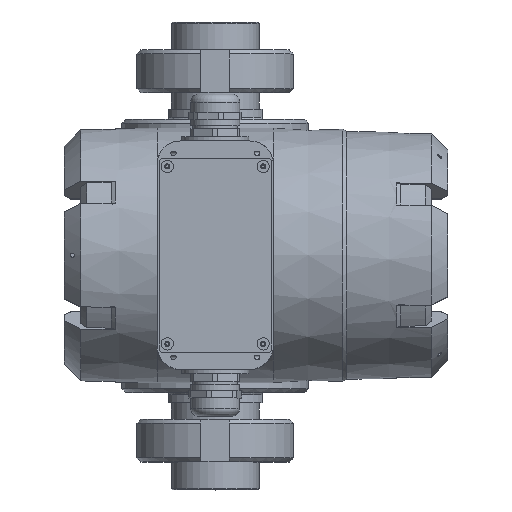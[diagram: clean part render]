
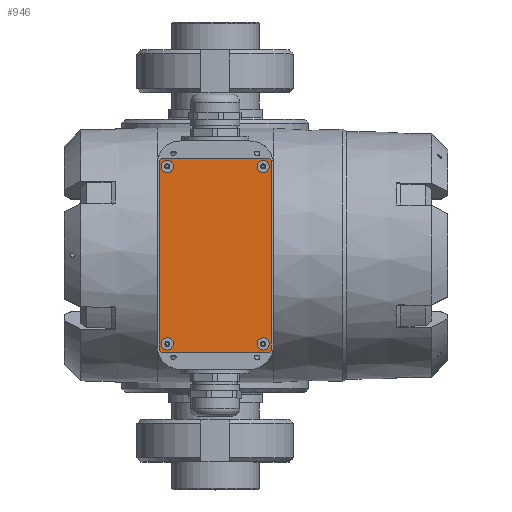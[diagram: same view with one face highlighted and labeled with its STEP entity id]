
A CAD part, top view. The second image highlights one B-rep face of the part: STEP entity #946.
In plain terms, the highlighted planar face has unit normal (0, 0, 1).
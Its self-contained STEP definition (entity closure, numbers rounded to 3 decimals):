
#946=ADVANCED_FACE('',(#9021,#9023,#9025,#9027,#9029),#9031,.T.);
#9021=FACE_BOUND('',#9022,.T.);
#9022=EDGE_LOOP('',(#24485,#24486,#24487,#24488,#24489,#24490,#24491,#24492));
#9023=FACE_BOUND('',#9024,.T.);
#9024=EDGE_LOOP('',(#24493));
#9025=FACE_BOUND('',#9026,.T.);
#9026=EDGE_LOOP('',(#24494));
#9027=FACE_BOUND('',#9028,.T.);
#9028=EDGE_LOOP('',(#24495));
#9029=FACE_BOUND('',#9030,.T.);
#9030=EDGE_LOOP('',(#24496));
#9031=PLANE('',#9032);
#9032=AXIS2_PLACEMENT_3D('',#9033,#9034,#9035);
#9033=CARTESIAN_POINT('',(0.,0.,235.829));
#9034=DIRECTION('',(0.,0.,1.));
#9035=DIRECTION('',(0.,1.,0.));
#24485=ORIENTED_EDGE('',*,*,#28303,.F.);
#24486=ORIENTED_EDGE('',*,*,#28289,.T.);
#24487=ORIENTED_EDGE('',*,*,#28292,.F.);
#24488=ORIENTED_EDGE('',*,*,#28294,.T.);
#24489=ORIENTED_EDGE('',*,*,#28296,.F.);
#24490=ORIENTED_EDGE('',*,*,#28298,.T.);
#24491=ORIENTED_EDGE('',*,*,#28300,.F.);
#24492=ORIENTED_EDGE('',*,*,#28302,.T.);
#24493=ORIENTED_EDGE('',*,*,#28364,.F.);
#24494=ORIENTED_EDGE('',*,*,#28365,.F.);
#24495=ORIENTED_EDGE('',*,*,#28366,.F.);
#24496=ORIENTED_EDGE('',*,*,#28367,.F.);
#28289=EDGE_CURVE('',#30461,#30459,#30462,.T.);
#28292=EDGE_CURVE('',#30464,#30459,#30466,.F.);
#28294=EDGE_CURVE('',#30464,#30467,#30469,.T.);
#28296=EDGE_CURVE('',#30470,#30467,#30472,.F.);
#28298=EDGE_CURVE('',#30470,#30473,#30475,.T.);
#28300=EDGE_CURVE('',#30476,#30473,#30478,.F.);
#28302=EDGE_CURVE('',#30476,#30479,#30481,.T.);
#28303=EDGE_CURVE('',#30461,#30479,#30482,.F.);
#28364=EDGE_CURVE('',#30583,#30583,#30584,.T.);
#28365=EDGE_CURVE('',#30585,#30585,#30586,.T.);
#28366=EDGE_CURVE('',#30587,#30587,#30588,.T.);
#28367=EDGE_CURVE('',#30589,#30589,#30590,.T.);
#30459=VERTEX_POINT('',#35589);
#30461=VERTEX_POINT('',#35593);
#30462=LINE('',#35594,#35595);
#30464=VERTEX_POINT('',#35600);
#30466=LINE('',#35604,#35605);
#30467=VERTEX_POINT('',#35607);
#30469=LINE('',#35611,#35612);
#30470=VERTEX_POINT('',#35614);
#30472=LINE('',#35618,#35619);
#30473=VERTEX_POINT('',#35621);
#30475=LINE('',#35625,#35626);
#30476=VERTEX_POINT('',#35628);
#30478=LINE('',#35632,#35633);
#30479=VERTEX_POINT('',#35635);
#30481=LINE('',#35639,#35640);
#30482=LINE('',#35642,#35643);
#30583=VERTEX_POINT('',#36455);
#30584=CIRCLE('',#36456,3.);
#30585=VERTEX_POINT('',#36460);
#30586=CIRCLE('',#36461,3.);
#30587=VERTEX_POINT('',#36465);
#30588=CIRCLE('',#36466,3.);
#30589=VERTEX_POINT('',#36470);
#30590=CIRCLE('',#36471,3.);
#35589=CARTESIAN_POINT('',(26.5,-47.5,235.829));
#35593=CARTESIAN_POINT('',(-26.5,-47.5,235.829));
#35594=CARTESIAN_POINT('',(-26.5,-47.5,235.829));
#35595=VECTOR('',#35596,1.);
#35596=DIRECTION('',(1.,0.,0.));
#35600=CARTESIAN_POINT('',(27.5,-46.5,235.829));
#35604=CARTESIAN_POINT('',(26.5,-47.5,235.829));
#35605=VECTOR('',#35606,1.);
#35606=DIRECTION('',(0.707,0.707,0.));
#35607=CARTESIAN_POINT('',(27.5,46.5,235.829));
#35611=CARTESIAN_POINT('',(27.5,-46.5,235.829));
#35612=VECTOR('',#35613,1.);
#35613=DIRECTION('',(0.,1.,0.));
#35614=CARTESIAN_POINT('',(26.5,47.5,235.829));
#35618=CARTESIAN_POINT('',(27.5,46.5,235.829));
#35619=VECTOR('',#35620,1.);
#35620=DIRECTION('',(-0.707,0.707,0.));
#35621=CARTESIAN_POINT('',(-26.5,47.5,235.829));
#35625=CARTESIAN_POINT('',(26.5,47.5,235.829));
#35626=VECTOR('',#35627,1.);
#35627=DIRECTION('',(-1.,0.,0.));
#35628=CARTESIAN_POINT('',(-27.5,46.5,235.829));
#35632=CARTESIAN_POINT('',(-26.5,47.5,235.829));
#35633=VECTOR('',#35634,1.);
#35634=DIRECTION('',(-0.707,-0.707,0.));
#35635=CARTESIAN_POINT('',(-27.5,-46.5,235.829));
#35639=CARTESIAN_POINT('',(-27.5,46.5,235.829));
#35640=VECTOR('',#35641,1.);
#35641=DIRECTION('',(0.,-1.,0.));
#35642=CARTESIAN_POINT('',(-27.5,-46.5,235.829));
#35643=VECTOR('',#35644,1.);
#35644=DIRECTION('',(0.707,-0.707,0.));
#36455=CARTESIAN_POINT('',(26.5,-43.5,235.829));
#36456=AXIS2_PLACEMENT_3D('',#36457,#36458,#36459);
#36457=CARTESIAN_POINT('',(23.5,-43.5,235.829));
#36458=DIRECTION('',(0.,0.,1.));
#36459=DIRECTION('',(1.,0.,0.));
#36460=CARTESIAN_POINT('',(-20.5,43.5,235.829));
#36461=AXIS2_PLACEMENT_3D('',#36462,#36463,#36464);
#36462=CARTESIAN_POINT('',(-23.5,43.5,235.829));
#36463=DIRECTION('',(0.,0.,1.));
#36464=DIRECTION('',(1.,0.,0.));
#36465=CARTESIAN_POINT('',(-20.5,-43.5,235.829));
#36466=AXIS2_PLACEMENT_3D('',#36467,#36468,#36469);
#36467=CARTESIAN_POINT('',(-23.5,-43.5,235.829));
#36468=DIRECTION('',(0.,0.,1.));
#36469=DIRECTION('',(1.,0.,0.));
#36470=CARTESIAN_POINT('',(26.5,43.5,235.829));
#36471=AXIS2_PLACEMENT_3D('',#36472,#36473,#36474);
#36472=CARTESIAN_POINT('',(23.5,43.5,235.829));
#36473=DIRECTION('',(0.,0.,1.));
#36474=DIRECTION('',(1.,0.,0.));
